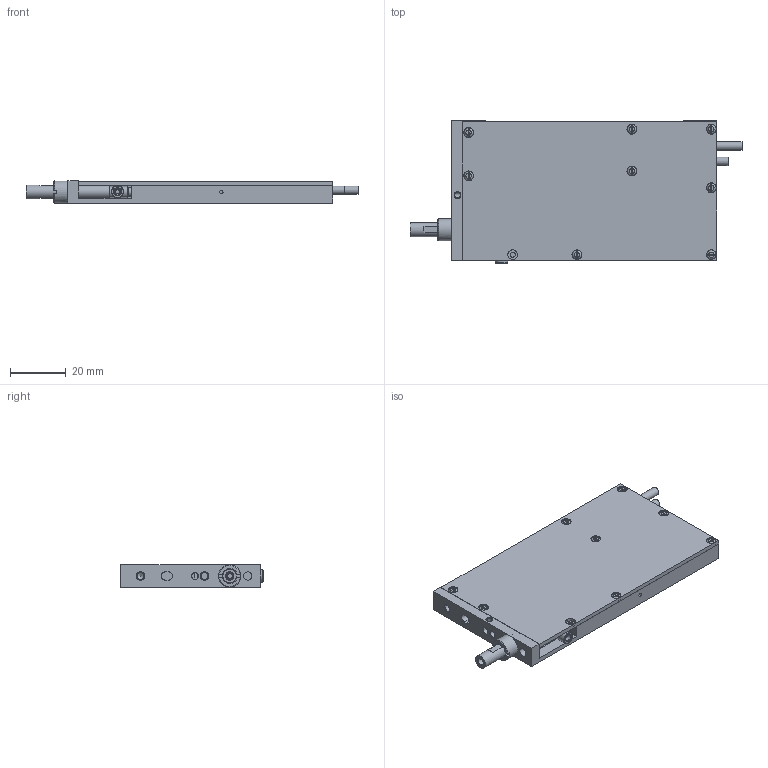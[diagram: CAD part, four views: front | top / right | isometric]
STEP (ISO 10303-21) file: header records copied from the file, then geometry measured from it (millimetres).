
FILE_DESCRIPTION((''),'2;1');
FILE_NAME('D:\SMAC-CAD\LCA\LCA8\LCA8-010\ASSY\LCA8-XXX-NOSE_3D_D.stp','2013-09-24T07:57:11',('ToanVu'),(''),'Autodesk Inventor 2008','Autodesk Inventor 2008','');
FILE_SCHEMA(('AUTOMOTIVE_DESIGN { 1 0 10303 214 1 1 1 1 }'));
Length unit declared in the file: millimetre
Products named in the file (10): LCA8-XXX-NOSE_3D_D; 900822-20-3D_D; 11619-10-2_C; 900822-PIS-3D; 21562-05_A; 23632-10_B; 18567-01_B; LCA8CAB-ADT; IS 6101 M1.6 x 2; 18564-01_A
Assembly tree (16 placements, depth 3):
  LCA8-XXX-NOSE_3D_D
    900822-20-3D_D
      11619-10-2_C
    900822-PIS-3D
      21562-05_A
    23632-10_B
    18567-01_B
    LCA8CAB-ADT
    IS 6101 M1.6 x 2  x8
    18564-01_A
Bounding box: 119.03 x 51 x 8 mm (x, y, z)
Volume: 15010.9 mm3; surface area: 25574 mm2
Topology: 14 solids, 14 shells, 462 faces, 1114 edges, 727 vertices
Faces by surface type: plane 247, cylinder 95, bspline 75, cone 37, torus 8
Full cylindrical faces by diameter (mm): 1.41 x8, 1.6 x8, 2.6 x1, 2.9 x1, 3 x5, 4 x1, 4.5 x1, 5 x2, 6 x12, 6.5 x1, 7 x1, 7.4 x2, 8 x1
Entity records: 11667 total; most frequent: CARTESIAN_POINT 3033, DIRECTION 1711, ORIENTED_EDGE 1572, EDGE_CURVE 786, AXIS2_PLACEMENT_3D 619, VERTEX_POINT 577, EDGE_LOOP 565, VECTOR 473
